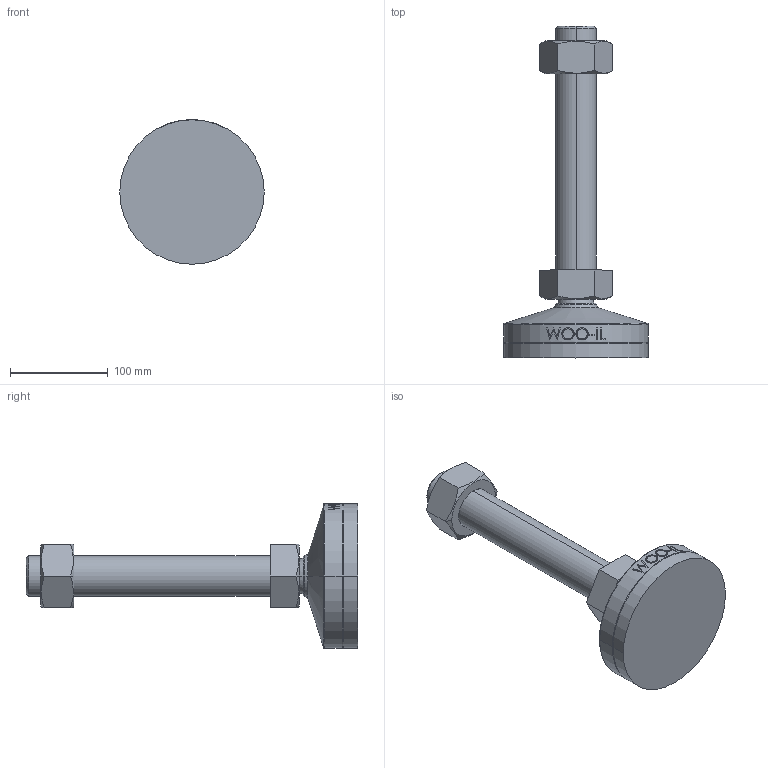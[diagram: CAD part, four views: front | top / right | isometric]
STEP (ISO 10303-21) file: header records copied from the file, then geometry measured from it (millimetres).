
FILE_DESCRIPTION (( 'STEP AP214' ), '1' );
FILE_NAME ('MFNR148-M42-250.step', '2021-02-22T09:05:43', ( '' ), ( '' ), 'SwSTEP 2.0', 'SolidWorks 2019', '' );
FILE_SCHEMA (( 'AUTOMOTIVE_DESIGN' ));
Length unit declared in the file: millimetre
Products named in the file (2): MFNR148-M42-250
Bounding box: 148 x 340 x 148 mm (x, y, z)
Volume: 1275527.1 mm3; surface area: 113720.2 mm2
Topology: 2 solids, 2 shells, 103 faces, 239 edges, 152 vertices
Faces by surface type: plane 47, cone 18, cylinder 16, bspline 16, torus 4, sphere 2
Entity records: 4657 total; most frequent: CARTESIAN_POINT 2378, ORIENTED_EDGE 478, DIRECTION 423, EDGE_CURVE 239, AXIS2_PLACEMENT_3D 161, VERTEX_POINT 152, EDGE_LOOP 117, FACE_OUTER_BOUND 103
